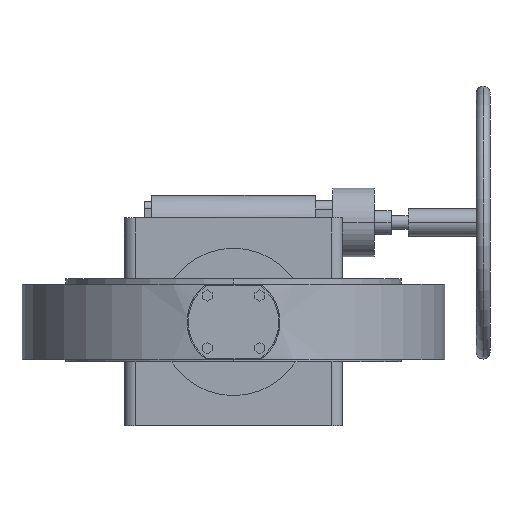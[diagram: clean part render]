
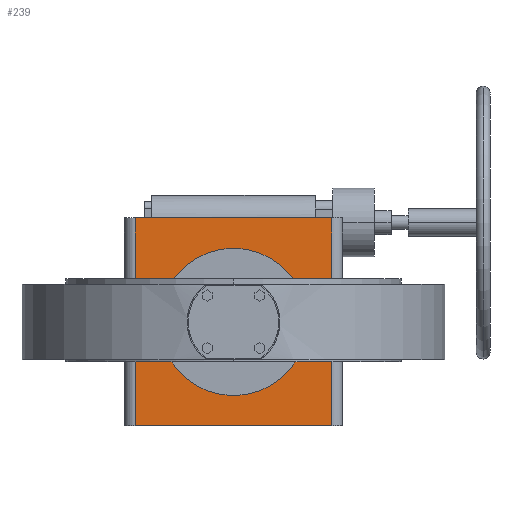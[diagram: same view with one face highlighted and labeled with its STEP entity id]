
A CAD part, front view. The second image highlights one B-rep face of the part: STEP entity #239.
In plain terms, the highlighted planar face has unit normal (0, -1, 0).
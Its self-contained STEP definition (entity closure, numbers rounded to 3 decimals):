
#239 = ADVANCED_FACE( '', ( #689, #690 ), #691, .T. );
#689 = FACE_OUTER_BOUND( '', #1428, .T. );
#690 = FACE_BOUND( '', #1429, .T. );
#691 = PLANE( '', #1430 );
#1428 = EDGE_LOOP( '', ( #2798, #2799, #2800, #2801 ) );
#1429 = EDGE_LOOP( '', ( #2802, #2803 ) );
#1430 = AXIS2_PLACEMENT_3D( '', #2804, #2805, #2806 );
#2798 = ORIENTED_EDGE( '', *, *, #4935, .T. );
#2799 = ORIENTED_EDGE( '', *, *, #4936, .F. );
#2800 = ORIENTED_EDGE( '', *, *, #4937, .F. );
#2801 = ORIENTED_EDGE( '', *, *, #4938, .T. );
#2802 = ORIENTED_EDGE( '', *, *, #4742, .T. );
#2803 = ORIENTED_EDGE( '', *, *, #4939, .T. );
#2804 = CARTESIAN_POINT( '', ( -180., 566., 190.5 ) );
#2805 = DIRECTION( '', ( 0., -1., 0. ) );
#2806 = DIRECTION( '', ( -1., 0., 0. ) );
#4742 = EDGE_CURVE( '', #5757, #5761, #5763, .T. );
#4935 = EDGE_CURVE( '', #6081, #6082, #6083, .T. );
#4936 = EDGE_CURVE( '', #6084, #6082, #6085, .T. );
#4937 = EDGE_CURVE( '', #6086, #6084, #6087, .T. );
#4938 = EDGE_CURVE( '', #6086, #6081, #6088, .T. );
#4939 = EDGE_CURVE( '', #5761, #5757, #6089, .T. );
#5757 = VERTEX_POINT( '', #7817 );
#5761 = VERTEX_POINT( '', #7822 );
#5763 = CIRCLE( '', #7825, 135. );
#6081 = VERTEX_POINT( '', #8489 );
#6082 = VERTEX_POINT( '', #8490 );
#6083 = LINE( '', #8491, #8492 );
#6084 = VERTEX_POINT( '', #8493 );
#6085 = LINE( '', #8494, #8495 );
#6086 = VERTEX_POINT( '', #8496 );
#6087 = LINE( '', #8497, #8498 );
#6088 = LINE( '', #8499, #8500 );
#6089 = CIRCLE( '', #8501, 135. );
#7817 = CARTESIAN_POINT( '', ( 135., 566., 0. ) );
#7822 = CARTESIAN_POINT( '', ( -135., 566., 0. ) );
#7825 = AXIS2_PLACEMENT_3D( '', #9986, #9987, #9988 );
#8489 = CARTESIAN_POINT( '', ( -180., 566., -190.5 ) );
#8490 = CARTESIAN_POINT( '', ( 180., 566., -190.5 ) );
#8491 = CARTESIAN_POINT( '', ( -180., 566., -190.5 ) );
#8492 = VECTOR( '', #10343, 1. );
#8493 = CARTESIAN_POINT( '', ( 180., 566., 190.5 ) );
#8494 = CARTESIAN_POINT( '', ( 180., 566., 190.5 ) );
#8495 = VECTOR( '', #10344, 1. );
#8496 = CARTESIAN_POINT( '', ( -180., 566., 190.5 ) );
#8497 = CARTESIAN_POINT( '', ( -180., 566., 190.5 ) );
#8498 = VECTOR( '', #10345, 1. );
#8499 = CARTESIAN_POINT( '', ( -180., 566., 190.5 ) );
#8500 = VECTOR( '', #10346, 1. );
#8501 = AXIS2_PLACEMENT_3D( '', #10347, #10348, #10349 );
#9986 = CARTESIAN_POINT( '', ( 0., 566., 0. ) );
#9987 = DIRECTION( '', ( 0., 1., 0. ) );
#9988 = DIRECTION( '', ( 1., 0., 0. ) );
#10343 = DIRECTION( '', ( 1., 0., 0. ) );
#10344 = DIRECTION( '', ( 0., 0., -1. ) );
#10345 = DIRECTION( '', ( 1., 0., 0. ) );
#10346 = DIRECTION( '', ( 0., 0., -1. ) );
#10347 = CARTESIAN_POINT( '', ( 0., 566., 0. ) );
#10348 = DIRECTION( '', ( 0., 1., 0. ) );
#10349 = DIRECTION( '', ( 1., 0., 0. ) );
